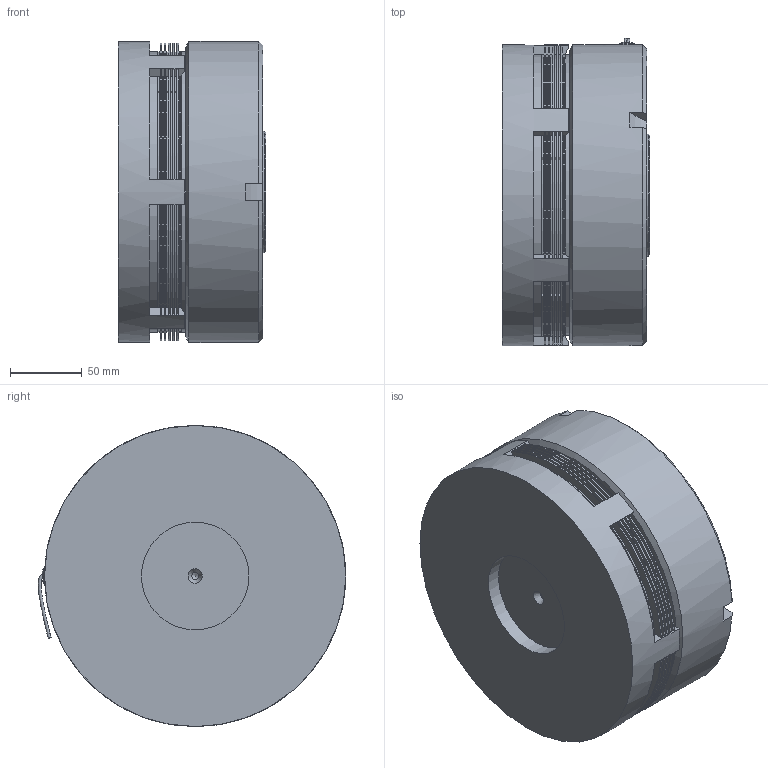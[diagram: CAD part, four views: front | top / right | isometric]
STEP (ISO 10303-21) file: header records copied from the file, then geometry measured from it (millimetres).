
FILE_DESCRIPTION(/* description */ (''),/* implementation_level */ '2;1');
FILE_NAME(/* name */ 'T:\INVENTOR\DISEGNI\05_Friz_Elettmag-Lam\05_05 ESB_S\05_05_210_01 ESB210_S\05_05_210_01 ESB210_S_@STEP.stp',/* time_stamp */ '2021-04-09T07:49:15+02:00',/* author */ ('w.sartori'),/* organization */ (''),/* preprocessor_version */ 'ST-DEVELOPER v18.1',/* originating_system */ 'Autodesk Inventor 2021',/* authorisation */ '');
FILE_SCHEMA (('AUTOMOTIVE_DESIGN { 1 0 10303 214 3 1 1 }'));
Products named in the file (1): 05_05_210_01 ESB210_S_Substitute_1
Bounding box: 103 x 214.44 x 210 mm (x, y, z)
Volume: 2445329 mm3; surface area: 861165.4 mm2
Topology: 16 solids, 16 shells, 2439 faces, 7161 edges, 4763 vertices
Faces by surface type: cylinder 1977, plane 438, cone 18, torus 3, bspline 3
Full cylindrical faces by diameter (mm): 3.5 x2, 4 x1, 5 x2, 9 x1, 11 x1, 75 x1, 81 x1, 85 x2, 86.5 x1, 100 x1, 114 x1, 115 x1, 120 x1, 130 x2, 134 x1, 142 x2, 156 x1, 170 x1, 188 x1, 195.8 x1, 196 x2, 197.5 x1, 210 x2
Entity records: 86201 total; most frequent: DIRECTION 16298, CARTESIAN_POINT 14864, ORIENTED_EDGE 14322, EDGE_CURVE 7161, AXIS2_PLACEMENT_3D 6734, VERTEX_POINT 4764, CIRCLE 4297, LINE 2830
